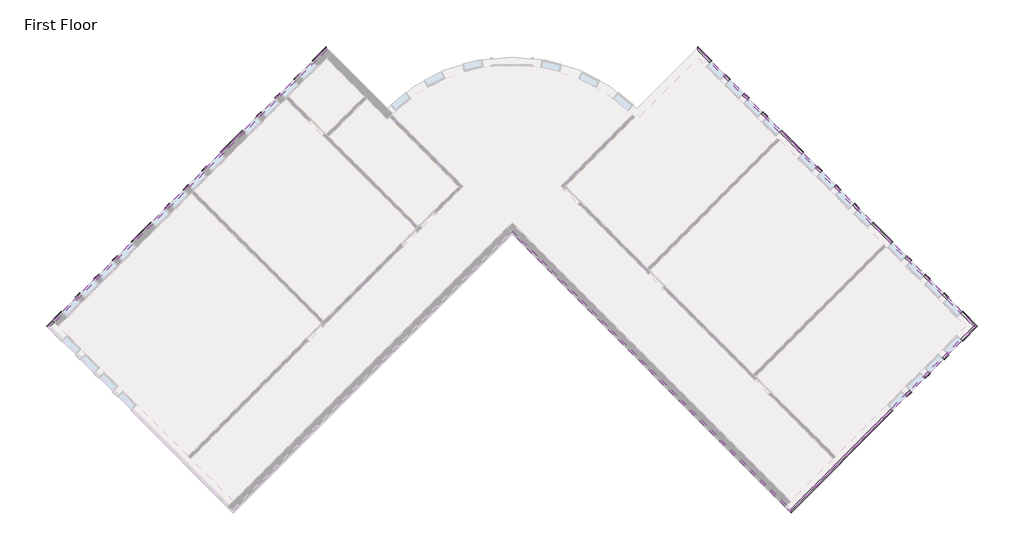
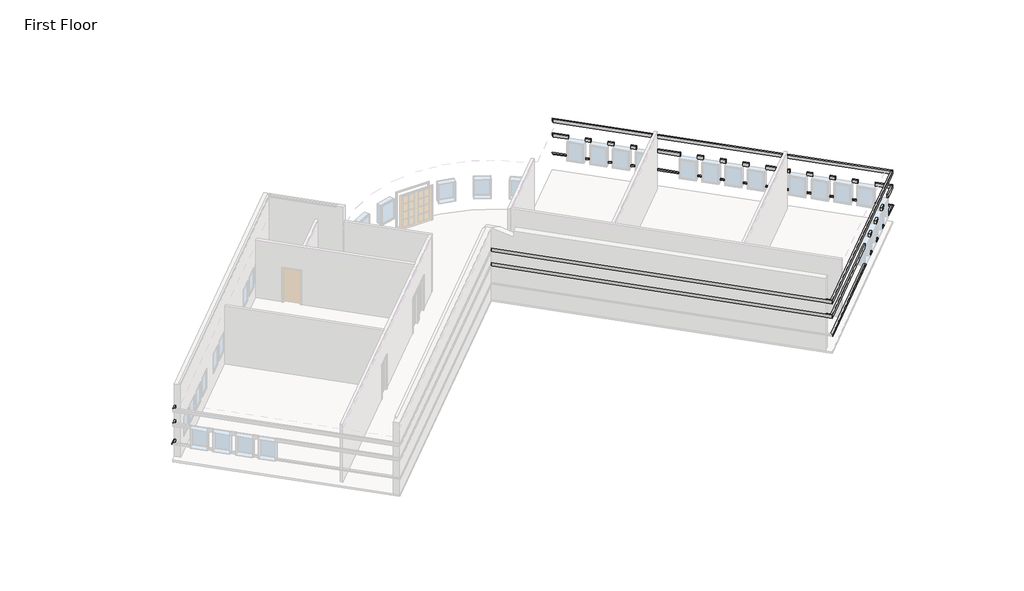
# One storey, part 3 of 3: 11 proxies.
"""IFC4 building model written with IfcOpenShell, lengths in millimetres."""

from ifc_helpers import new_model, si_unit, origin, place, context, project, spatial, faceted_brep, element, save

model = new_model("IFC4")

# Units and contexts
model_context = context("Model", 3, world=origin())
ifc_project = project(units=[si_unit("LENGTHUNIT", "METRE", prefix="MILLI")], contexts=[model_context])

# Site, building, storey
site = spatial("IfcSite", under=ifc_project)
building = spatial("IfcBuilding", under=site)
storey = spatial("IfcBuildingStorey", under=building, Name="First Floor", Elevation=0.0)

# Proxies
placement = place(None, origin())
element("IfcBuildingElementProxy", 1, Name="Wall Sweeps", at=placement, inside=storey, context=model_context, shape_type="Brep", body=[
    faceted_brep([(5753.0175119, 11443.3655905, 1085.85), (5753.0175119, 11573.5793042, 1085.85), (5753.0175119, 11622.9707129, 1041.4), (5753.0175119, 11622.9707129, 1016.0), (5753.0175119, 11443.3655905, 1016.0), (6317.415551, 10878.9675514, 1085.85), (6317.415551, 10878.9675514, 1016.0), (6382.5224079, 10944.0744083, 1016.0), (6407.2181122, 10968.7701126, 1016.0), (6407.2181122, 10968.7701126, 1041.4), (6382.5224079, 10944.0744083, 1085.85)], [[[0, 1, 2, 3, 4]], [[5, 6, 7, 8, 9, 10]], [[1, 0, 5, 10]], [[2, 1, 10, 9]], [[3, 2, 9, 8]], [[4, 3, 8, 7, 6]], [[0, 4, 6, 5]]]),
    faceted_brep([(6963.9939917, 10232.3891107, 1085.85), (7029.1008486, 10297.4959676, 1085.85), (7053.7965529, 10322.1916719, 1041.4), (7053.7965529, 10322.1916719, 1016.0), (7029.1008486, 10297.4959676, 1016.0), (6963.9939917, 10232.3891107, 1016.0), (7179.5201386, 10016.8629638, 1085.85), (7179.5201386, 10016.8629638, 1016.0), (7244.6269955, 10081.9698207, 1016.0), (7269.3226998, 10106.665525, 1016.0), (7269.3226998, 10106.665525, 1041.4), (7244.6269955, 10081.9698207, 1085.85)], [[[0, 1, 2, 3, 4, 5]], [[6, 7, 8, 9, 10, 11]], [[1, 0, 6, 11]], [[2, 1, 11, 10]], [[3, 2, 10, 9]], [[5, 4, 3, 9, 8, 7]], [[0, 5, 7, 6]]]),
    faceted_brep([(7826.0985793, 9370.2845231, 1085.85), (7891.2054362, 9435.39138, 1085.85), (7915.9011405, 9460.0870843, 1041.4), (7915.9011405, 9460.0870843, 1016.0), (7891.2054362, 9435.39138, 1016.0), (7826.0985793, 9370.2845231, 1016.0), (8041.6247262, 9154.7583762, 1085.85), (8041.6247262, 9154.7583762, 1016.0), (8106.7315831, 9219.8652331, 1016.0), (8131.4272874, 9244.5609374, 1016.0), (8131.4272874, 9244.5609374, 1041.4), (8106.7315831, 9219.8652331, 1085.85)], [[[0, 1, 2, 3, 4, 5]], [[6, 7, 8, 9, 10, 11]], [[1, 0, 6, 11]], [[2, 1, 11, 10]], [[3, 2, 10, 9]], [[5, 4, 3, 9, 8, 7]], [[0, 5, 7, 6]]]),
    faceted_brep([(8688.2031669, 8508.1799355, 1085.85), (8753.3100238, 8573.2867923, 1085.85), (8778.0057282, 8597.9824967, 1041.4), (8778.0057282, 8597.9824967, 1016.0), (8753.3100238, 8573.2867923, 1016.0), (8688.2031669, 8508.1799355, 1016.0), (8903.7293139, 8292.6537886, 1085.85), (8903.7293139, 8292.6537886, 1016.0), (8968.8361707, 8357.7606454, 1016.0), (8993.5318751, 8382.4563498, 1016.0), (8993.5318751, 8382.4563498, 1041.4), (8968.8361707, 8357.7606454, 1085.85)], [[[0, 1, 2, 3, 4, 5]], [[6, 7, 8, 9, 10, 11]], [[1, 0, 6, 11]], [[2, 1, 11, 10]], [[3, 2, 10, 9]], [[5, 4, 3, 9, 8, 7]], [[0, 5, 7, 6]]]),
    faceted_brep([(9550.3077546, 7646.0753478, 1085.85), (9615.4146114, 7711.1822047, 1085.85), (9640.1103158, 7735.877909, 1041.4), (9640.1103158, 7735.877909, 1016.0), (9615.4146114, 7711.1822047, 1016.0), (9550.3077546, 7646.0753478, 1016.0), (10574.7639411, 6621.6191613, 1085.85), (10574.7639411, 6621.6191613, 1016.0), (10639.870798, 6686.7260182, 1016.0), (10664.5665023, 6711.4217225, 1016.0), (10664.5665023, 6711.4217225, 1041.4), (10639.870798, 6686.7260182, 1085.85)], [[[0, 1, 2, 3, 4, 5]], [[6, 7, 8, 9, 10, 11]], [[1, 0, 6, 11]], [[2, 1, 11, 10]], [[3, 2, 10, 9]], [[5, 4, 3, 9, 8, 7]], [[0, 5, 7, 6]]]),
    faceted_brep([(11221.3423818, 5975.0407206, 1085.85), (11286.4492387, 6040.1475775, 1085.85), (11311.144943, 6064.8432818, 1041.4), (11311.144943, 6064.8432818, 1016.0), (11286.4492387, 6040.1475775, 1016.0), (11221.3423818, 5975.0407206, 1016.0), (11436.8685287, 5759.5145737, 1085.85), (11436.8685287, 5759.5145737, 1016.0), (11501.9753856, 5824.6214306, 1016.0), (11526.6710899, 5849.3171349, 1016.0), (11526.6710899, 5849.3171349, 1041.4), (11501.9753856, 5824.6214306, 1085.85)], [[[0, 1, 2, 3, 4, 5]], [[6, 7, 8, 9, 10, 11]], [[1, 0, 6, 11]], [[2, 1, 11, 10]], [[3, 2, 10, 9]], [[5, 4, 3, 9, 8, 7]], [[0, 5, 7, 6]]]),
    faceted_brep([(12083.4469694, 5112.936133, 1085.85), (12148.5538263, 5178.0429899, 1085.85), (12173.2495306, 5202.7386942, 1041.4), (12173.2495306, 5202.7386942, 1016.0), (12148.5538263, 5178.0429899, 1016.0), (12083.4469694, 5112.936133, 1016.0), (12298.9731163, 4897.4099861, 1085.85), (12298.9731163, 4897.4099861, 1016.0), (12364.0799732, 4962.516843, 1016.0), (12388.7756775, 4987.2125473, 1016.0), (12388.7756775, 4987.2125473, 1041.4), (12364.0799732, 4962.516843, 1085.85)], [[[0, 1, 2, 3, 4, 5]], [[6, 7, 8, 9, 10, 11]], [[1, 0, 6, 11]], [[2, 1, 11, 10]], [[3, 2, 10, 9]], [[5, 4, 3, 9, 8, 7]], [[0, 5, 7, 6]]]),
    faceted_brep([(12945.551557, 4250.8315454, 1085.85), (13010.6584139, 4315.9384023, 1085.85), (13035.3541182, 4340.6341066, 1041.4), (13035.3541182, 4340.6341066, 1016.0), (13010.6584139, 4315.9384023, 1016.0), (12945.551557, 4250.8315454, 1016.0), (13161.0777039, 4035.3053985, 1085.85), (13161.0777039, 4035.3053985, 1016.0), (13226.1845608, 4100.4122553, 1016.0), (13250.8802652, 4125.1079597, 1016.0), (13250.8802652, 4125.1079597, 1041.4), (13226.1845608, 4100.4122553, 1085.85)], [[[0, 1, 2, 3, 4, 5]], [[6, 7, 8, 9, 10, 11]], [[1, 0, 6, 11]], [[2, 1, 11, 10]], [[3, 2, 10, 9]], [[5, 4, 3, 9, 8, 7]], [[0, 5, 7, 6]]]),
    faceted_brep([(13807.6561447, 3388.7269578, 1085.85), (13872.7630015, 3453.8338146, 1085.85), (13897.4587059, 3478.529519, 1041.4), (13897.4587059, 3478.529519, 1016.0), (13872.7630015, 3453.8338146, 1016.0), (13807.6561447, 3388.7269578, 1016.0), (14723.1708449, 2473.2122576, 1085.85), (14723.1708449, 2473.2122576, 1016.0), (14788.2777017, 2538.3191144, 1016.0), (14812.9734061, 2563.0148188, 1016.0), (14812.9734061, 2563.0148188, 1041.4), (14788.2777017, 2538.3191144, 1085.85)], [[[0, 1, 2, 3, 4, 5]], [[6, 7, 8, 9, 10, 11]], [[1, 0, 6, 11]], [[2, 1, 11, 10]], [[3, 2, 10, 9]], [[5, 4, 3, 9, 8, 7]], [[0, 5, 7, 6]]]),
    faceted_brep([(15369.7492856, 1826.6338168, 1085.85), (15434.8561424, 1891.7406737, 1085.85), (15459.5518468, 1916.4363781, 1041.4), (15459.5518468, 1916.4363781, 1016.0), (15434.8561424, 1891.7406737, 1016.0), (15369.7492856, 1826.6338168, 1016.0), (15585.2754325, 1611.1076699, 1085.85), (15585.2754325, 1611.1076699, 1016.0), (15650.3822894, 1676.2145268, 1016.0), (15675.0779937, 1700.9102311, 1016.0), (15675.0779937, 1700.9102311, 1041.4), (15650.3822894, 1676.2145268, 1085.85)], [[[0, 1, 2, 3, 4, 5]], [[6, 7, 8, 9, 10, 11]], [[1, 0, 6, 11]], [[2, 1, 11, 10]], [[3, 2, 10, 9]], [[5, 4, 3, 9, 8, 7]], [[0, 5, 7, 6]]]),
    faceted_brep([(16231.8538732, 964.5292292, 1085.85), (16296.9607301, 1029.6360861, 1085.85), (16321.6564344, 1054.3317904, 1041.4), (16321.6564344, 1054.3317904, 1016.0), (16296.9607301, 1029.6360861, 1016.0), (16231.8538732, 964.5292292, 1016.0), (16447.3800201, 749.0030823, 1085.85), (16447.3800201, 749.0030823, 1016.0), (16512.486877, 814.1099392, 1016.0), (16537.1825813, 838.8056435, 1016.0), (16537.1825813, 838.8056435, 1041.4), (16512.486877, 814.1099392, 1085.85)], [[[0, 1, 2, 3, 4, 5]], [[6, 7, 8, 9, 10, 11]], [[1, 0, 6, 11]], [[2, 1, 11, 10]], [[3, 2, 10, 9]], [[5, 4, 3, 9, 8, 7]], [[0, 5, 7, 6]]]),
    faceted_brep([(17093.9584608, 102.4246416, 1085.85), (17159.0653177, 167.5314985, 1085.85), (17183.761022, 192.2272028, 1041.4), (17183.761022, 192.2272028, 1016.0), (17159.0653177, 167.5314985, 1016.0), (17093.9584608, 102.4246416, 1016.0), (17309.4846077, -113.1015053, 1085.85), (17309.4846077, -113.1015053, 1016.0), (17374.5914646, -47.9946484, 1016.0), (17399.2871689, -23.2989441, 1016.0), (17399.2871689, -23.2989441, 1041.4), (17374.5914646, -47.9946484, 1085.85)], [[[0, 1, 2, 3, 4, 5]], [[6, 7, 8, 9, 10, 11]], [[1, 0, 6, 11]], [[2, 1, 11, 10]], [[3, 2, 10, 9]], [[5, 4, 3, 9, 8, 7]], [[0, 5, 7, 6]]]),
    faceted_brep([(17956.0630484, -759.679946, 1085.85), (18021.1699053, -694.5730891, 1085.85), (18045.8656096, -669.8773848, 1041.4), (18045.8656096, -669.8773848, 1016.0), (18021.1699053, -694.5730891, 1016.0), (17956.0630484, -759.679946, 1016.0), (18554.3726125, -1357.9895101, 1085.85), (18554.3726125, -1357.9895101, 1016.0), (18733.9777349, -1357.9895101, 1016.0), (18733.9777349, -1357.9895101, 1041.4), (18684.5863263, -1357.9895101, 1085.85)], [[[0, 1, 2, 3, 4, 5]], [[6, 7, 8, 9, 10]], [[1, 0, 6, 10]], [[2, 1, 10, 9]], [[3, 2, 9, 8]], [[5, 4, 3, 8, 7]], [[0, 5, 7, 6]]]),
])
element("IfcBuildingElementProxy", 2, Name="Wall Sweeps", at=placement, inside=storey, context=model_context, shape_type="Brep", body=[
    faceted_brep([(5753.0175119, 11573.5793042, 2336.8), (5753.0175119, 11573.5793042, 2133.6), (5753.0175119, 11443.3655905, 2133.6), (5753.0175119, 11443.3655905, 2336.8), (6382.5224079, 10944.0744083, 2336.8), (6317.415551, 10878.9675514, 2336.8), (6317.415551, 10878.9675514, 2133.6), (6382.5224079, 10944.0744083, 2133.6), (6002.2196193, 11324.3771969, 2336.8), (6002.2196193, 11324.3771969, 2133.6)], [[[0, 1, 2, 3]], [[4, 5, 6, 7]], [[1, 0, 8, 4, 7, 9]], [[2, 1, 9, 7, 6]], [[3, 2, 6, 5]], [[0, 3, 5, 4, 8]]]),
    faceted_brep([(7029.1008486, 10297.4959676, 2336.8), (7029.1008486, 10297.4959676, 2133.6), (6963.9939917, 10232.3891107, 2133.6), (6963.9939917, 10232.3891107, 2336.8), (7244.6269955, 10081.9698207, 2336.8), (7179.5201386, 10016.8629638, 2336.8), (7179.5201386, 10016.8629638, 2133.6), (7244.6269955, 10081.9698207, 2133.6)], [[[0, 1, 2, 3]], [[4, 5, 6, 7]], [[1, 0, 4, 7]], [[2, 1, 7, 6]], [[3, 2, 6, 5]], [[0, 3, 5, 4]]]),
    faceted_brep([(7891.2054362, 9435.39138, 2336.8), (7891.2054362, 9435.39138, 2133.6), (7826.0985793, 9370.2845231, 2133.6), (7826.0985793, 9370.2845231, 2336.8), (8106.7315831, 9219.8652331, 2336.8), (8041.6247262, 9154.7583762, 2336.8), (8041.6247262, 9154.7583762, 2133.6), (8106.7315831, 9219.8652331, 2133.6)], [[[0, 1, 2, 3]], [[4, 5, 6, 7]], [[1, 0, 4, 7]], [[2, 1, 7, 6]], [[3, 2, 6, 5]], [[0, 3, 5, 4]]]),
    faceted_brep([(8753.3100238, 8573.2867923, 2336.8), (8753.3100238, 8573.2867923, 2133.6), (8688.2031669, 8508.1799355, 2133.6), (8688.2031669, 8508.1799355, 2336.8), (8968.8361707, 8357.7606454, 2336.8), (8903.7293139, 8292.6537886, 2336.8), (8903.7293139, 8292.6537886, 2133.6), (8968.8361707, 8357.7606454, 2133.6)], [[[0, 1, 2, 3]], [[4, 5, 6, 7]], [[1, 0, 4, 7]], [[2, 1, 7, 6]], [[3, 2, 6, 5]], [[0, 3, 5, 4]]]),
    faceted_brep([(9615.4146114, 7711.1822047, 2336.8), (9615.4146114, 7711.1822047, 2133.6), (9550.3077546, 7646.0753478, 2133.6), (9550.3077546, 7646.0753478, 2336.8), (10639.870798, 6686.7260182, 2336.8), (10574.7639411, 6621.6191613, 2336.8), (10574.7639411, 6621.6191613, 2133.6), (10639.870798, 6686.7260182, 2133.6)], [[[0, 1, 2, 3]], [[4, 5, 6, 7]], [[1, 0, 4, 7]], [[2, 1, 7, 6]], [[3, 2, 6, 5]], [[0, 3, 5, 4]]]),
    faceted_brep([(11286.4492387, 6040.1475775, 2336.8), (11286.4492387, 6040.1475775, 2133.6), (11221.3423818, 5975.0407206, 2133.6), (11221.3423818, 5975.0407206, 2336.8), (11501.9753856, 5824.6214306, 2336.8), (11436.8685287, 5759.5145737, 2336.8), (11436.8685287, 5759.5145737, 2133.6), (11501.9753856, 5824.6214306, 2133.6)], [[[0, 1, 2, 3]], [[4, 5, 6, 7]], [[1, 0, 4, 7]], [[2, 1, 7, 6]], [[3, 2, 6, 5]], [[0, 3, 5, 4]]]),
    faceted_brep([(12148.5538263, 5178.0429899, 2336.8), (12148.5538263, 5178.0429899, 2133.6), (12083.4469694, 5112.936133, 2133.6), (12083.4469694, 5112.936133, 2336.8), (12364.0799732, 4962.516843, 2336.8), (12298.9731163, 4897.4099861, 2336.8), (12298.9731163, 4897.4099861, 2133.6), (12364.0799732, 4962.516843, 2133.6)], [[[0, 1, 2, 3]], [[4, 5, 6, 7]], [[1, 0, 4, 7]], [[2, 1, 7, 6]], [[3, 2, 6, 5]], [[0, 3, 5, 4]]]),
    faceted_brep([(13010.6584139, 4315.9384023, 2336.8), (13010.6584139, 4315.9384023, 2133.6), (12945.551557, 4250.8315454, 2133.6), (12945.551557, 4250.8315454, 2336.8), (13226.1845608, 4100.4122553, 2336.8), (13161.0777039, 4035.3053985, 2336.8), (13161.0777039, 4035.3053985, 2133.6), (13226.1845608, 4100.4122553, 2133.6)], [[[0, 1, 2, 3]], [[4, 5, 6, 7]], [[1, 0, 4, 7]], [[2, 1, 7, 6]], [[3, 2, 6, 5]], [[0, 3, 5, 4]]]),
    faceted_brep([(13872.7630015, 3453.8338146, 2336.8), (13872.7630015, 3453.8338146, 2133.6), (13807.6561447, 3388.7269578, 2133.6), (13807.6561447, 3388.7269578, 2336.8), (14788.2777017, 2538.3191144, 2336.8), (14723.1708449, 2473.2122576, 2336.8), (14723.1708449, 2473.2122576, 2133.6), (14788.2777017, 2538.3191144, 2133.6)], [[[0, 1, 2, 3]], [[4, 5, 6, 7]], [[1, 0, 4, 7]], [[2, 1, 7, 6]], [[3, 2, 6, 5]], [[0, 3, 5, 4]]]),
    faceted_brep([(15434.8561424, 1891.7406737, 2336.8), (15434.8561424, 1891.7406737, 2133.6), (15369.7492856, 1826.6338168, 2133.6), (15369.7492856, 1826.6338168, 2336.8), (15650.3822894, 1676.2145268, 2336.8), (15585.2754325, 1611.1076699, 2336.8), (15585.2754325, 1611.1076699, 2133.6), (15650.3822894, 1676.2145268, 2133.6)], [[[0, 1, 2, 3]], [[4, 5, 6, 7]], [[1, 0, 4, 7]], [[2, 1, 7, 6]], [[3, 2, 6, 5]], [[0, 3, 5, 4]]]),
    faceted_brep([(16296.9607301, 1029.6360861, 2336.8), (16296.9607301, 1029.6360861, 2133.6), (16231.8538732, 964.5292292, 2133.6), (16231.8538732, 964.5292292, 2336.8), (16512.486877, 814.1099392, 2336.8), (16447.3800201, 749.0030823, 2336.8), (16447.3800201, 749.0030823, 2133.6), (16512.486877, 814.1099392, 2133.6)], [[[0, 1, 2, 3]], [[4, 5, 6, 7]], [[1, 0, 4, 7]], [[2, 1, 7, 6]], [[3, 2, 6, 5]], [[0, 3, 5, 4]]]),
    faceted_brep([(17159.0653177, 167.5314985, 2336.8), (17159.0653177, 167.5314985, 2133.6), (17093.9584608, 102.4246416, 2133.6), (17093.9584608, 102.4246416, 2336.8), (17374.5914646, -47.9946484, 2336.8), (17309.4846077, -113.1015053, 2336.8), (17309.4846077, -113.1015053, 2133.6), (17374.5914646, -47.9946484, 2133.6)], [[[0, 1, 2, 3]], [[4, 5, 6, 7]], [[1, 0, 4, 7]], [[2, 1, 7, 6]], [[3, 2, 6, 5]], [[0, 3, 5, 4]]]),
    faceted_brep([(18021.1699053, -694.5730891, 2336.8), (18021.1699053, -694.5730891, 2133.6), (17956.0630484, -759.679946, 2133.6), (17956.0630484, -759.679946, 2336.8), (18684.5863263, -1357.9895101, 2336.8), (18554.3726125, -1357.9895101, 2336.8), (18554.3726125, -1357.9895101, 2133.6), (18684.5863263, -1357.9895101, 2133.6)], [[[0, 1, 2, 3]], [[4, 5, 6, 7]], [[1, 0, 4, 7]], [[2, 1, 7, 6]], [[3, 2, 6, 5]], [[0, 3, 5, 4]]]),
])
element("IfcBuildingElementProxy", 3, Name="Wall Sweeps", at=placement, inside=storey, context=model_context, shape_type="Brep", body=[
    faceted_brep([(5753.0175119, 11573.5793042, 3251.2), (5753.0175119, 11573.5793042, 3048.0), (5753.0175119, 11443.3655905, 3048.0), (5753.0175119, 11443.3655905, 3251.2), (18684.5863263, -1357.9895101, 3251.2), (18554.3726125, -1357.9895101, 3251.2), (18554.3726125, -1357.9895101, 3048.0), (18684.5863263, -1357.9895101, 3048.0), (6002.2196193, 11324.3771969, 3251.2), (6002.2196193, 11324.3771969, 3048.0)], [[[0, 1, 2, 3]], [[4, 5, 6, 7]], [[1, 0, 8, 4, 7, 9]], [[2, 1, 9, 7, 6]], [[3, 2, 6, 5]], [[0, 3, 5, 4, 8]]]),
])
element("IfcBuildingElementProxy", 4, Name="Wall Sweeps", at=placement, inside=storey, context=model_context, shape_type="Brep", body=[
    faceted_brep([(18554.3726125, -1357.9895101, 1085.85), (18684.5863263, -1357.9895101, 1085.85), (18733.9777349, -1357.9895101, 1041.4), (18733.9777349, -1357.9895101, 1016.0), (18554.3726125, -1357.9895101, 1016.0), (17956.0630484, -1956.2990742, 1085.85), (17956.0630484, -1956.2990742, 1016.0), (18021.1699053, -2021.405931, 1016.0), (18045.8656096, -2046.1016354, 1016.0), (18045.8656096, -2046.1016354, 1041.4), (18021.1699053, -2021.405931, 1085.85)], [[[0, 1, 2, 3, 4]], [[5, 6, 7, 8, 9, 10]], [[1, 0, 5, 10]], [[2, 1, 10, 9]], [[3, 2, 9, 8]], [[4, 3, 8, 7, 6]], [[0, 4, 6, 5]]]),
    faceted_brep([(17309.4846077, -2602.8775149, 1085.85), (17374.5914646, -2667.9843718, 1085.85), (17399.2871689, -2692.6800761, 1041.4), (17399.2871689, -2692.6800761, 1016.0), (17374.5914646, -2667.9843718, 1016.0), (17309.4846077, -2602.8775149, 1016.0), (17093.9584608, -2818.4036618, 1085.85), (17093.9584608, -2818.4036618, 1016.0), (17159.0653177, -2883.5105187, 1016.0), (17183.761022, -2908.206223, 1016.0), (17183.761022, -2908.206223, 1041.4), (17159.0653177, -2883.5105187, 1085.85)], [[[0, 1, 2, 3, 4, 5]], [[6, 7, 8, 9, 10, 11]], [[1, 0, 6, 11]], [[2, 1, 11, 10]], [[3, 2, 10, 9]], [[5, 4, 3, 9, 8, 7]], [[0, 5, 7, 6]]]),
    faceted_brep([(16447.3800201, -3464.9821025, 1085.85), (16512.486877, -3530.0889594, 1085.85), (16537.1825813, -3554.7846637, 1041.4), (16537.1825813, -3554.7846637, 1016.0), (16512.486877, -3530.0889594, 1016.0), (16447.3800201, -3464.9821025, 1016.0), (16231.8538732, -3680.5082494, 1085.85), (16231.8538732, -3680.5082494, 1016.0), (16296.9607301, -3745.6151063, 1016.0), (16321.6564344, -3770.3108106, 1016.0), (16321.6564344, -3770.3108106, 1041.4), (16296.9607301, -3745.6151063, 1085.85)], [[[0, 1, 2, 3, 4, 5]], [[6, 7, 8, 9, 10, 11]], [[1, 0, 6, 11]], [[2, 1, 11, 10]], [[3, 2, 10, 9]], [[5, 4, 3, 9, 8, 7]], [[0, 5, 7, 6]]]),
    faceted_brep([(15585.2754325, -4327.0866901, 1085.85), (15650.3822894, -4392.193547, 1085.85), (15675.0779937, -4416.8892513, 1041.4), (15675.0779937, -4416.8892513, 1016.0), (15650.3822894, -4392.193547, 1016.0), (15585.2754325, -4327.0866901, 1016.0), (15369.7492856, -4542.612837, 1085.85), (15369.7492856, -4542.612837, 1016.0), (15434.8561424, -4607.7196939, 1016.0), (15459.5518468, -4632.4153982, 1016.0), (15459.5518468, -4632.4153982, 1041.4), (15434.8561424, -4607.7196939, 1085.85)], [[[0, 1, 2, 3, 4, 5]], [[6, 7, 8, 9, 10, 11]], [[1, 0, 6, 11]], [[2, 1, 11, 10]], [[3, 2, 10, 9]], [[5, 4, 3, 9, 8, 7]], [[0, 5, 7, 6]]]),
    faceted_brep([(14723.1708449, -5189.1912777, 1085.85), (14788.2777017, -5254.2981346, 1085.85), (14812.9734061, -5278.993839, 1041.4), (14812.9734061, -5278.993839, 1016.0), (14788.2777017, -5254.2981346, 1016.0), (14723.1708449, -5189.1912777, 1016.0), (10063.54045, -9848.8216726, 1085.85), (10063.54045, -9848.8216726, 1016.0), (10063.54045, -10028.426795, 1016.0), (10063.54045, -10028.426795, 1041.4), (10063.54045, -9979.0353863, 1085.85)], [[[0, 1, 2, 3, 4, 5]], [[6, 7, 8, 9, 10]], [[1, 0, 6, 10]], [[2, 1, 10, 9]], [[3, 2, 9, 8]], [[5, 4, 3, 8, 7]], [[0, 5, 7, 6]]]),
])
element("IfcBuildingElementProxy", 5, Name="Wall Sweeps", at=placement, inside=storey, context=model_context, shape_type="Brep", body=[
    faceted_brep([(18684.5863263, -1357.9895101, 2336.8), (18684.5863263, -1357.9895101, 2133.6), (18554.3726125, -1357.9895101, 2133.6), (18554.3726125, -1357.9895101, 2336.8), (18021.1699053, -2021.405931, 2336.8), (17956.0630484, -1956.2990742, 2336.8), (17956.0630484, -1956.2990742, 2133.6), (18021.1699053, -2021.405931, 2133.6), (18435.3842189, -1607.1916175, 2336.8), (18435.3842189, -1607.1916175, 2133.6)], [[[0, 1, 2, 3]], [[4, 5, 6, 7]], [[1, 0, 8, 4, 7, 9]], [[2, 1, 9, 7, 6]], [[3, 2, 6, 5]], [[0, 3, 5, 4, 8]]]),
    faceted_brep([(17374.5914646, -2667.9843718, 2336.8), (17374.5914646, -2667.9843718, 2133.6), (17309.4846077, -2602.8775149, 2133.6), (17309.4846077, -2602.8775149, 2336.8), (17159.0653177, -2883.5105187, 2336.8), (17093.9584608, -2818.4036618, 2336.8), (17093.9584608, -2818.4036618, 2133.6), (17159.0653177, -2883.5105187, 2133.6)], [[[0, 1, 2, 3]], [[4, 5, 6, 7]], [[1, 0, 4, 7]], [[2, 1, 7, 6]], [[3, 2, 6, 5]], [[0, 3, 5, 4]]]),
    faceted_brep([(16512.486877, -3530.0889594, 2336.8), (16512.486877, -3530.0889594, 2133.6), (16447.3800201, -3464.9821025, 2133.6), (16447.3800201, -3464.9821025, 2336.8), (16296.9607301, -3745.6151063, 2336.8), (16231.8538732, -3680.5082494, 2336.8), (16231.8538732, -3680.5082494, 2133.6), (16296.9607301, -3745.6151063, 2133.6)], [[[0, 1, 2, 3]], [[4, 5, 6, 7]], [[1, 0, 4, 7]], [[2, 1, 7, 6]], [[3, 2, 6, 5]], [[0, 3, 5, 4]]]),
    faceted_brep([(15650.3822894, -4392.193547, 2336.8), (15650.3822894, -4392.193547, 2133.6), (15585.2754325, -4327.0866901, 2133.6), (15585.2754325, -4327.0866901, 2336.8), (15434.8561424, -4607.7196939, 2336.8), (15369.7492856, -4542.612837, 2336.8), (15369.7492856, -4542.612837, 2133.6), (15434.8561424, -4607.7196939, 2133.6)], [[[0, 1, 2, 3]], [[4, 5, 6, 7]], [[1, 0, 4, 7]], [[2, 1, 7, 6]], [[3, 2, 6, 5]], [[0, 3, 5, 4]]]),
    faceted_brep([(14788.2777017, -5254.2981346, 2336.8), (14788.2777017, -5254.2981346, 2133.6), (14723.1708449, -5189.1912777, 2133.6), (14723.1708449, -5189.1912777, 2336.8), (10063.54045, -9979.0353863, 2336.8), (10063.54045, -9848.8216726, 2336.8), (10063.54045, -9848.8216726, 2133.6), (10063.54045, -9979.0353863, 2133.6)], [[[0, 1, 2, 3]], [[4, 5, 6, 7]], [[1, 0, 4, 7]], [[2, 1, 7, 6]], [[3, 2, 6, 5]], [[0, 3, 5, 4]]]),
])
element("IfcBuildingElementProxy", 6, Name="Wall Sweeps", at=placement, inside=storey, context=model_context, shape_type="Brep", body=[
    faceted_brep([(18684.5863263, -1357.9895101, 3251.2), (18684.5863263, -1357.9895101, 3048.0), (18554.3726125, -1357.9895101, 3048.0), (18554.3726125, -1357.9895101, 3251.2), (10063.54045, -9979.0353863, 3251.2), (10063.54045, -9848.8216726, 3251.2), (10063.54045, -9848.8216726, 3048.0), (10063.54045, -9979.0353863, 3048.0), (18435.3842189, -1607.1916175, 3251.2), (18435.3842189, -1607.1916175, 3048.0)], [[[0, 1, 2, 3]], [[4, 5, 6, 7]], [[1, 0, 8, 4, 7, 9]], [[2, 1, 9, 7, 6]], [[3, 2, 6, 5]], [[0, 3, 5, 4, 8]]]),
])
element("IfcBuildingElementProxy", 7, Name="Wall Sweeps", at=placement, inside=storey, context=model_context, shape_type="Brep", body=[
    faceted_brep([(10063.54045, -9979.0353863, 2336.8), (10063.54045, -9979.0353863, 2133.6), (10063.54045, -9848.8216726, 2133.6), (10063.54045, -9848.8216726, 2336.8), (-2868.0283643, 2952.533428, 2336.8), (-2868.0283643, 3082.7471418, 2336.8), (-2868.0283643, 3082.7471418, 2133.6), (-2868.0283643, 2952.533428, 2133.6), (9814.3383427, -9729.833279, 2336.8), (9814.3383427, -9729.833279, 2133.6)], [[[0, 1, 2, 3]], [[4, 5, 6, 7]], [[1, 0, 8, 4, 7, 9]], [[2, 1, 9, 7, 6]], [[3, 2, 6, 5]], [[0, 3, 5, 4, 8]]]),
])
element("IfcBuildingElementProxy", 8, Name="Wall Sweeps", at=placement, inside=storey, context=model_context, shape_type="Brep", body=[
    faceted_brep([(10063.54045, -9979.0353863, 3251.2), (10063.54045, -9979.0353863, 3048.0), (10063.54045, -9848.8216726, 3048.0), (10063.54045, -9848.8216726, 3251.2), (-2868.0283643, 2952.533428, 3251.2), (-2868.0283643, 3082.7471418, 3251.2), (-2868.0283643, 3082.7471418, 3048.0), (-2868.0283643, 2952.533428, 3048.0), (9814.3383427, -9729.833279, 3251.2), (9814.3383427, -9729.833279, 3048.0)], [[[0, 1, 2, 3]], [[4, 5, 6, 7]], [[1, 0, 8, 4, 7, 9]], [[2, 1, 9, 7, 6]], [[3, 2, 6, 5]], [[0, 3, 5, 4, 8]]]),
])
element("IfcBuildingElementProxy", 9, Name="Wall Sweeps", at=placement, inside=storey, context=model_context, shape_type="Brep", body=[
    faceted_brep([(-24290.4293411, -1357.9895101, 1085.85), (-24420.6430549, -1357.9895101, 1085.85), (-24470.0344635, -1357.9895101, 1041.4), (-24470.0344635, -1357.9895101, 1016.0), (-24290.4293411, -1357.9895101, 1016.0), (-23692.119777, -759.679946, 1085.85), (-23692.119777, -759.679946, 1016.0), (-23757.2266339, -694.5730891, 1016.0), (-23781.9223383, -669.8773848, 1016.0), (-23781.9223383, -669.8773848, 1041.4), (-23757.2266339, -694.5730891, 1085.85)], [[[0, 1, 2, 3, 4]], [[5, 6, 7, 8, 9, 10]], [[1, 0, 5, 10]], [[2, 1, 10, 9]], [[3, 2, 9, 8]], [[4, 3, 8, 7, 6]], [[0, 4, 6, 5]]]),
    faceted_brep([(-23045.5413363, -113.1015053, 1085.85), (-23110.6481932, -47.9946484, 1085.85), (-23135.3438975, -23.2989441, 1041.4), (-23135.3438975, -23.2989441, 1016.0), (-23110.6481932, -47.9946484, 1016.0), (-23045.5413363, -113.1015053, 1016.0), (-22830.0151894, 102.4246416, 1085.85), (-22830.0151894, 102.4246416, 1016.0), (-22895.1220463, 167.5314985, 1016.0), (-22919.8177506, 192.2272028, 1016.0), (-22919.8177506, 192.2272028, 1041.4), (-22895.1220463, 167.5314985, 1085.85)], [[[0, 1, 2, 3, 4, 5]], [[6, 7, 8, 9, 10, 11]], [[1, 0, 6, 11]], [[2, 1, 11, 10]], [[3, 2, 10, 9]], [[5, 4, 3, 9, 8, 7]], [[0, 5, 7, 6]]]),
    faceted_brep([(-22183.4367487, 749.0030823, 1085.85), (-22248.5436056, 814.1099392, 1085.85), (-22273.2393099, 838.8056435, 1041.4), (-22273.2393099, 838.8056435, 1016.0), (-22248.5436056, 814.1099392, 1016.0), (-22183.4367487, 749.0030823, 1016.0), (-21967.9106018, 964.5292292, 1085.85), (-21967.9106018, 964.5292292, 1016.0), (-22033.0174587, 1029.6360861, 1016.0), (-22057.713163, 1054.3317904, 1016.0), (-22057.713163, 1054.3317904, 1041.4), (-22033.0174587, 1029.6360861, 1085.85)], [[[0, 1, 2, 3, 4, 5]], [[6, 7, 8, 9, 10, 11]], [[1, 0, 6, 11]], [[2, 1, 11, 10]], [[3, 2, 10, 9]], [[5, 4, 3, 9, 8, 7]], [[0, 5, 7, 6]]]),
    faceted_brep([(-21321.3321611, 1611.1076699, 1085.85), (-21386.439018, 1676.2145268, 1085.85), (-21411.1347223, 1700.9102311, 1041.4), (-21411.1347223, 1700.9102311, 1016.0), (-21386.439018, 1676.2145268, 1016.0), (-21321.3321611, 1611.1076699, 1016.0), (-21105.8060142, 1826.6338168, 1085.85), (-21105.8060142, 1826.6338168, 1016.0), (-21170.9128711, 1891.7406737, 1016.0), (-21195.6085754, 1916.4363781, 1016.0), (-21195.6085754, 1916.4363781, 1041.4), (-21170.9128711, 1891.7406737, 1085.85)], [[[0, 1, 2, 3, 4, 5]], [[6, 7, 8, 9, 10, 11]], [[1, 0, 6, 11]], [[2, 1, 11, 10]], [[3, 2, 10, 9]], [[5, 4, 3, 9, 8, 7]], [[0, 5, 7, 6]]]),
    faceted_brep([(-20459.2275735, 2473.2122576, 1085.85), (-20524.3344303, 2538.3191144, 1085.85), (-20549.0301347, 2563.0148188, 1041.4), (-20549.0301347, 2563.0148188, 1016.0), (-20524.3344303, 2538.3191144, 1016.0), (-20459.2275735, 2473.2122576, 1016.0), (-19543.7128733, 3388.7269578, 1085.85), (-19543.7128733, 3388.7269578, 1016.0), (-19608.8197301, 3453.8338146, 1016.0), (-19633.5154345, 3478.529519, 1016.0), (-19633.5154345, 3478.529519, 1041.4), (-19608.8197301, 3453.8338146, 1085.85)], [[[0, 1, 2, 3, 4, 5]], [[6, 7, 8, 9, 10, 11]], [[1, 0, 6, 11]], [[2, 1, 11, 10]], [[3, 2, 10, 9]], [[5, 4, 3, 9, 8, 7]], [[0, 5, 7, 6]]]),
    faceted_brep([(-18897.1344326, 4035.3053985, 1085.85), (-18962.2412894, 4100.4122553, 1085.85), (-18986.9369938, 4125.1079597, 1041.4), (-18986.9369938, 4125.1079597, 1016.0), (-18962.2412894, 4100.4122553, 1016.0), (-18897.1344326, 4035.3053985, 1016.0), (-18681.6082856, 4250.8315454, 1085.85), (-18681.6082856, 4250.8315454, 1016.0), (-18746.7151425, 4315.9384023, 1016.0), (-18771.4108469, 4340.6341066, 1016.0), (-18771.4108469, 4340.6341066, 1041.4), (-18746.7151425, 4315.9384023, 1085.85)], [[[0, 1, 2, 3, 4, 5]], [[6, 7, 8, 9, 10, 11]], [[1, 0, 6, 11]], [[2, 1, 11, 10]], [[3, 2, 10, 9]], [[5, 4, 3, 9, 8, 7]], [[0, 5, 7, 6]]]),
    faceted_brep([(-18035.0298449, 4897.4099861, 1085.85), (-18100.1367018, 4962.516843, 1085.85), (-18124.8324061, 4987.2125473, 1041.4), (-18124.8324061, 4987.2125473, 1016.0), (-18100.1367018, 4962.516843, 1016.0), (-18035.0298449, 4897.4099861, 1016.0), (-17819.503698, 5112.936133, 1085.85), (-17819.503698, 5112.936133, 1016.0), (-17884.6105549, 5178.0429899, 1016.0), (-17909.3062592, 5202.7386942, 1016.0), (-17909.3062592, 5202.7386942, 1041.4), (-17884.6105549, 5178.0429899, 1085.85)], [[[0, 1, 2, 3, 4, 5]], [[6, 7, 8, 9, 10, 11]], [[1, 0, 6, 11]], [[2, 1, 11, 10]], [[3, 2, 10, 9]], [[5, 4, 3, 9, 8, 7]], [[0, 5, 7, 6]]]),
    faceted_brep([(-17172.9252573, 5759.5145737, 1085.85), (-17238.0321142, 5824.6214306, 1085.85), (-17262.7278185, 5849.3171349, 1041.4), (-17262.7278185, 5849.3171349, 1016.0), (-17238.0321142, 5824.6214306, 1016.0), (-17172.9252573, 5759.5145737, 1016.0), (-16957.3991104, 5975.0407206, 1085.85), (-16957.3991104, 5975.0407206, 1016.0), (-17022.5059673, 6040.1475775, 1016.0), (-17047.2016716, 6064.8432818, 1016.0), (-17047.2016716, 6064.8432818, 1041.4), (-17022.5059673, 6040.1475775, 1085.85)], [[[0, 1, 2, 3, 4, 5]], [[6, 7, 8, 9, 10, 11]], [[1, 0, 6, 11]], [[2, 1, 11, 10]], [[3, 2, 10, 9]], [[5, 4, 3, 9, 8, 7]], [[0, 5, 7, 6]]]),
    faceted_brep([(-16310.8206697, 6621.6191613, 1085.85), (-16375.9275266, 6686.7260182, 1085.85), (-16400.6232309, 6711.4217225, 1041.4), (-16400.6232309, 6711.4217225, 1016.0), (-16375.9275266, 6686.7260182, 1016.0), (-16310.8206697, 6621.6191613, 1016.0), (-15286.3644832, 7646.0753478, 1085.85), (-15286.3644832, 7646.0753478, 1016.0), (-15351.4713401, 7711.1822047, 1016.0), (-15376.1670444, 7735.877909, 1016.0), (-15376.1670444, 7735.877909, 1041.4), (-15351.4713401, 7711.1822047, 1085.85)], [[[0, 1, 2, 3, 4, 5]], [[6, 7, 8, 9, 10, 11]], [[1, 0, 6, 11]], [[2, 1, 11, 10]], [[3, 2, 10, 9]], [[5, 4, 3, 9, 8, 7]], [[0, 5, 7, 6]]]),
    faceted_brep([(-14639.7860425, 8292.6537886, 1085.85), (-14704.8928993, 8357.7606454, 1085.85), (-14729.5886037, 8382.4563498, 1041.4), (-14729.5886037, 8382.4563498, 1016.0), (-14704.8928993, 8357.7606454, 1016.0), (-14639.7860425, 8292.6537886, 1016.0), (-14424.2598956, 8508.1799355, 1085.85), (-14424.2598956, 8508.1799355, 1016.0), (-14489.3667524, 8573.2867923, 1016.0), (-14514.0624568, 8597.9824967, 1016.0), (-14514.0624568, 8597.9824967, 1041.4), (-14489.3667524, 8573.2867923, 1085.85)], [[[0, 1, 2, 3, 4, 5]], [[6, 7, 8, 9, 10, 11]], [[1, 0, 6, 11]], [[2, 1, 11, 10]], [[3, 2, 10, 9]], [[5, 4, 3, 9, 8, 7]], [[0, 5, 7, 6]]]),
    faceted_brep([(-13777.6814548, 9154.7583762, 1085.85), (-13842.7883117, 9219.8652331, 1085.85), (-13867.4840161, 9244.5609374, 1041.4), (-13867.4840161, 9244.5609374, 1016.0), (-13842.7883117, 9219.8652331, 1016.0), (-13777.6814548, 9154.7583762, 1016.0), (-13562.1553079, 9370.2845231, 1085.85), (-13562.1553079, 9370.2845231, 1016.0), (-13627.2621648, 9435.39138, 1016.0), (-13651.9578691, 9460.0870843, 1016.0), (-13651.9578691, 9460.0870843, 1041.4), (-13627.2621648, 9435.39138, 1085.85)], [[[0, 1, 2, 3, 4, 5]], [[6, 7, 8, 9, 10, 11]], [[1, 0, 6, 11]], [[2, 1, 11, 10]], [[3, 2, 10, 9]], [[5, 4, 3, 9, 8, 7]], [[0, 5, 7, 6]]]),
    faceted_brep([(-12915.5768672, 10016.8629638, 1085.85), (-12980.6837241, 10081.9698207, 1085.85), (-13005.3794284, 10106.665525, 1041.4), (-13005.3794284, 10106.665525, 1016.0), (-12980.6837241, 10081.9698207, 1016.0), (-12915.5768672, 10016.8629638, 1016.0), (-12700.0507203, 10232.3891107, 1085.85), (-12700.0507203, 10232.3891107, 1016.0), (-12765.1575772, 10297.4959676, 1016.0), (-12789.8532815, 10322.1916719, 1016.0), (-12789.8532815, 10322.1916719, 1041.4), (-12765.1575772, 10297.4959676, 1085.85)], [[[0, 1, 2, 3, 4, 5]], [[6, 7, 8, 9, 10, 11]], [[1, 0, 6, 11]], [[2, 1, 11, 10]], [[3, 2, 10, 9]], [[5, 4, 3, 9, 8, 7]], [[0, 5, 7, 6]]]),
    faceted_brep([(-12053.4722796, 10878.9675514, 1085.85), (-12118.5791365, 10944.0744083, 1085.85), (-12143.2748408, 10968.7701126, 1041.4), (-12143.2748408, 10968.7701126, 1016.0), (-12118.5791365, 10944.0744083, 1016.0), (-12053.4722796, 10878.9675514, 1016.0), (-11489.0742405, 11443.3655905, 1085.85), (-11489.0742405, 11443.3655905, 1016.0), (-11489.0742405, 11622.9707129, 1016.0), (-11489.0742405, 11622.9707129, 1041.4), (-11489.0742405, 11573.5793042, 1085.85)], [[[0, 1, 2, 3, 4, 5]], [[6, 7, 8, 9, 10]], [[1, 0, 6, 10]], [[2, 1, 10, 9]], [[3, 2, 9, 8]], [[5, 4, 3, 8, 7]], [[0, 5, 7, 6]]]),
])
element("IfcBuildingElementProxy", 10, Name="Wall Sweeps", at=placement, inside=storey, context=model_context, shape_type="Brep", body=[
    faceted_brep([(-24420.6430549, -1357.9895101, 2336.8), (-24420.6430549, -1357.9895101, 2133.6), (-24290.4293411, -1357.9895101, 2133.6), (-24290.4293411, -1357.9895101, 2336.8), (-23757.2266339, -694.5730891, 2336.8), (-23692.119777, -759.679946, 2336.8), (-23692.119777, -759.679946, 2133.6), (-23757.2266339, -694.5730891, 2133.6), (-24171.4409475, -1108.7874027, 2336.8), (-24171.4409475, -1108.7874027, 2133.6)], [[[0, 1, 2, 3]], [[4, 5, 6, 7]], [[1, 0, 8, 4, 7, 9]], [[2, 1, 9, 7, 6]], [[3, 2, 6, 5]], [[0, 3, 5, 4, 8]]]),
    faceted_brep([(-23110.6481932, -47.9946484, 2336.8), (-23110.6481932, -47.9946484, 2133.6), (-23045.5413363, -113.1015053, 2133.6), (-23045.5413363, -113.1015053, 2336.8), (-22895.1220463, 167.5314985, 2336.8), (-22830.0151894, 102.4246416, 2336.8), (-22830.0151894, 102.4246416, 2133.6), (-22895.1220463, 167.5314985, 2133.6)], [[[0, 1, 2, 3]], [[4, 5, 6, 7]], [[1, 0, 4, 7]], [[2, 1, 7, 6]], [[3, 2, 6, 5]], [[0, 3, 5, 4]]]),
    faceted_brep([(-22248.5436056, 814.1099392, 2336.8), (-22248.5436056, 814.1099392, 2133.6), (-22183.4367487, 749.0030823, 2133.6), (-22183.4367487, 749.0030823, 2336.8), (-22033.0174587, 1029.6360861, 2336.8), (-21967.9106018, 964.5292292, 2336.8), (-21967.9106018, 964.5292292, 2133.6), (-22033.0174587, 1029.6360861, 2133.6)], [[[0, 1, 2, 3]], [[4, 5, 6, 7]], [[1, 0, 4, 7]], [[2, 1, 7, 6]], [[3, 2, 6, 5]], [[0, 3, 5, 4]]]),
    faceted_brep([(-21386.439018, 1676.2145268, 2336.8), (-21386.439018, 1676.2145268, 2133.6), (-21321.3321611, 1611.1076699, 2133.6), (-21321.3321611, 1611.1076699, 2336.8), (-21170.9128711, 1891.7406737, 2336.8), (-21105.8060142, 1826.6338168, 2336.8), (-21105.8060142, 1826.6338168, 2133.6), (-21170.9128711, 1891.7406737, 2133.6)], [[[0, 1, 2, 3]], [[4, 5, 6, 7]], [[1, 0, 4, 7]], [[2, 1, 7, 6]], [[3, 2, 6, 5]], [[0, 3, 5, 4]]]),
    faceted_brep([(-20524.3344303, 2538.3191144, 2336.8), (-20524.3344303, 2538.3191144, 2133.6), (-20459.2275735, 2473.2122576, 2133.6), (-20459.2275735, 2473.2122576, 2336.8), (-19608.8197301, 3453.8338146, 2336.8), (-19543.7128733, 3388.7269578, 2336.8), (-19543.7128733, 3388.7269578, 2133.6), (-19608.8197301, 3453.8338146, 2133.6)], [[[0, 1, 2, 3]], [[4, 5, 6, 7]], [[1, 0, 4, 7]], [[2, 1, 7, 6]], [[3, 2, 6, 5]], [[0, 3, 5, 4]]]),
    faceted_brep([(-18962.2412894, 4100.4122553, 2336.8), (-18962.2412894, 4100.4122553, 2133.6), (-18897.1344326, 4035.3053985, 2133.6), (-18897.1344326, 4035.3053985, 2336.8), (-18746.7151425, 4315.9384023, 2336.8), (-18681.6082856, 4250.8315454, 2336.8), (-18681.6082856, 4250.8315454, 2133.6), (-18746.7151425, 4315.9384023, 2133.6)], [[[0, 1, 2, 3]], [[4, 5, 6, 7]], [[1, 0, 4, 7]], [[2, 1, 7, 6]], [[3, 2, 6, 5]], [[0, 3, 5, 4]]]),
    faceted_brep([(-18100.1367018, 4962.516843, 2336.8), (-18100.1367018, 4962.516843, 2133.6), (-18035.0298449, 4897.4099861, 2133.6), (-18035.0298449, 4897.4099861, 2336.8), (-17884.6105549, 5178.0429899, 2336.8), (-17819.503698, 5112.936133, 2336.8), (-17819.503698, 5112.936133, 2133.6), (-17884.6105549, 5178.0429899, 2133.6)], [[[0, 1, 2, 3]], [[4, 5, 6, 7]], [[1, 0, 4, 7]], [[2, 1, 7, 6]], [[3, 2, 6, 5]], [[0, 3, 5, 4]]]),
    faceted_brep([(-17238.0321142, 5824.6214306, 2336.8), (-17238.0321142, 5824.6214306, 2133.6), (-17172.9252573, 5759.5145737, 2133.6), (-17172.9252573, 5759.5145737, 2336.8), (-17022.5059673, 6040.1475775, 2336.8), (-16957.3991104, 5975.0407206, 2336.8), (-16957.3991104, 5975.0407206, 2133.6), (-17022.5059673, 6040.1475775, 2133.6)], [[[0, 1, 2, 3]], [[4, 5, 6, 7]], [[1, 0, 4, 7]], [[2, 1, 7, 6]], [[3, 2, 6, 5]], [[0, 3, 5, 4]]]),
    faceted_brep([(-16375.9275266, 6686.7260182, 2336.8), (-16375.9275266, 6686.7260182, 2133.6), (-16310.8206697, 6621.6191613, 2133.6), (-16310.8206697, 6621.6191613, 2336.8), (-15351.4713401, 7711.1822047, 2336.8), (-15286.3644832, 7646.0753478, 2336.8), (-15286.3644832, 7646.0753478, 2133.6), (-15351.4713401, 7711.1822047, 2133.6)], [[[0, 1, 2, 3]], [[4, 5, 6, 7]], [[1, 0, 4, 7]], [[2, 1, 7, 6]], [[3, 2, 6, 5]], [[0, 3, 5, 4]]]),
    faceted_brep([(-14704.8928993, 8357.7606454, 2336.8), (-14704.8928993, 8357.7606454, 2133.6), (-14639.7860425, 8292.6537886, 2133.6), (-14639.7860425, 8292.6537886, 2336.8), (-14489.3667524, 8573.2867923, 2336.8), (-14424.2598956, 8508.1799355, 2336.8), (-14424.2598956, 8508.1799355, 2133.6), (-14489.3667524, 8573.2867923, 2133.6)], [[[0, 1, 2, 3]], [[4, 5, 6, 7]], [[1, 0, 4, 7]], [[2, 1, 7, 6]], [[3, 2, 6, 5]], [[0, 3, 5, 4]]]),
    faceted_brep([(-13842.7883117, 9219.8652331, 2336.8), (-13842.7883117, 9219.8652331, 2133.6), (-13777.6814548, 9154.7583762, 2133.6), (-13777.6814548, 9154.7583762, 2336.8), (-13627.2621648, 9435.39138, 2336.8), (-13562.1553079, 9370.2845231, 2336.8), (-13562.1553079, 9370.2845231, 2133.6), (-13627.2621648, 9435.39138, 2133.6)], [[[0, 1, 2, 3]], [[4, 5, 6, 7]], [[1, 0, 4, 7]], [[2, 1, 7, 6]], [[3, 2, 6, 5]], [[0, 3, 5, 4]]]),
    faceted_brep([(-12980.6837241, 10081.9698207, 2336.8), (-12980.6837241, 10081.9698207, 2133.6), (-12915.5768672, 10016.8629638, 2133.6), (-12915.5768672, 10016.8629638, 2336.8), (-12765.1575772, 10297.4959676, 2336.8), (-12700.0507203, 10232.3891107, 2336.8), (-12700.0507203, 10232.3891107, 2133.6), (-12765.1575772, 10297.4959676, 2133.6)], [[[0, 1, 2, 3]], [[4, 5, 6, 7]], [[1, 0, 4, 7]], [[2, 1, 7, 6]], [[3, 2, 6, 5]], [[0, 3, 5, 4]]]),
    faceted_brep([(-12118.5791365, 10944.0744083, 2336.8), (-12118.5791365, 10944.0744083, 2133.6), (-12053.4722796, 10878.9675514, 2133.6), (-12053.4722796, 10878.9675514, 2336.8), (-11489.0742405, 11573.5793042, 2336.8), (-11489.0742405, 11443.3655905, 2336.8), (-11489.0742405, 11443.3655905, 2133.6), (-11489.0742405, 11573.5793042, 2133.6)], [[[0, 1, 2, 3]], [[4, 5, 6, 7]], [[1, 0, 4, 7]], [[2, 1, 7, 6]], [[3, 2, 6, 5]], [[0, 3, 5, 4]]]),
])
element("IfcBuildingElementProxy", 11, Name="Wall Sweeps", at=placement, inside=storey, context=model_context, shape_type="Brep", body=[
    faceted_brep([(-24420.6430549, -1357.9895101, 3251.2), (-24420.6430549, -1357.9895101, 3048.0), (-24290.4293411, -1357.9895101, 3048.0), (-24290.4293411, -1357.9895101, 3251.2), (-11489.0742405, 11573.5793042, 3251.2), (-11489.0742405, 11443.3655905, 3251.2), (-11489.0742405, 11443.3655905, 3048.0), (-11489.0742405, 11573.5793042, 3048.0), (-24171.4409475, -1108.7874027, 3251.2), (-24171.4409475, -1108.7874027, 3048.0)], [[[0, 1, 2, 3]], [[4, 5, 6, 7]], [[1, 0, 8, 4, 7, 9]], [[2, 1, 9, 7, 6]], [[3, 2, 6, 5]], [[0, 3, 5, 4, 8]]]),
])

save(model, "model.ifc")
